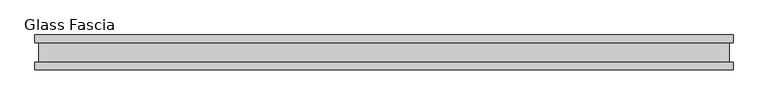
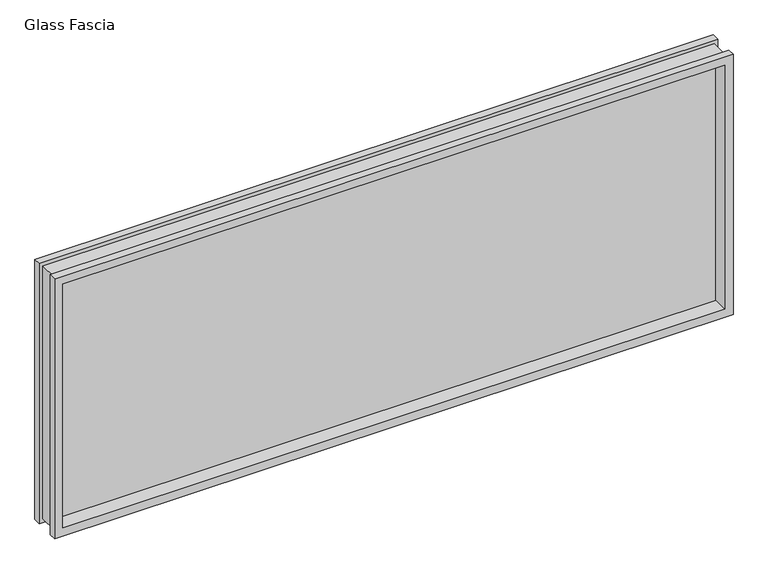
"""IFC4 building model written with IfcOpenShell, lengths in millimetres: proxy geometry, Panel-Fascia-Teknion-Altos-Glass : Glass Fascia."""

from ifc_helpers import new_model, si_unit, frame, origin, place, context, project, spatial, polyline, outline, extrude, faceted_brep, source, transform, mapped, element, save


def glass_fascia_9ef64add(model_context):
    return source(origin(), model_context, "Body", "SolidModel", [
        faceted_brep([(985.6995219, -5.0827449, 799.4805243), (985.6995219, 5.0827449, 799.4805243), (985.6995219, 5.0827449, 17.6374757), (985.6995219, -5.0827449, 17.6374757), (1000.1619976, -28.8801202, 813.943), (1000.1619976, -50.0558594, 813.943), (1000.1619976, -50.0558594, 3.175), (1000.1619976, -28.8801202, 3.175), (989.3369977, 28.2698798, 803.1180001), (989.3369977, -28.8801202, 803.1180001), (989.3369977, -28.8801202, 13.9999999), (989.3369977, 28.2698798, 13.9999999), (1000.1619976, 50.0558594, 813.943), (1000.1619976, 28.2698798, 813.943), (1000.1619976, 28.2698798, 3.175), (1000.1619976, 50.0558594, 3.175), (-985.6995219, 5.0827449, 17.6374757), (-985.6995219, -5.0827449, 17.6374757), (-1000.1619976, -50.0558594, 3.175), (-1000.1619976, -28.8801202, 3.175), (-989.3369977, -28.8801202, 13.9999999), (-989.3369977, 28.2698798, 13.9999999), (-1000.1619976, 28.2698798, 3.175), (-1000.1619976, 50.0558594, 3.175), (-985.6995219, 5.0827449, 799.4805243), (-985.6995219, -5.0827449, 799.4805243), (-1000.1619976, -50.0558594, 813.943), (-1000.1619976, -28.8801202, 813.943), (-989.3369977, -28.8801202, 803.1180001), (-989.3369977, 28.2698798, 803.1180001), (-1000.1619976, 28.2698798, 813.943), (-1000.1619976, 50.0558594, 813.943), (975.2093308, 50.0558594, 788.9903332), (-975.2093308, 50.0558594, 788.9903332), (-975.2093308, 50.0558594, 28.1276668), (975.2093308, 50.0558594, 28.1276668), (975.2093308, 5.0827449, 28.1276668), (-975.2093308, 5.0827449, 28.1276668), (-975.2093308, 5.0827449, 788.9903332), (975.2093308, 5.0827449, 788.9903332), (975.2093308, -5.0827449, 788.9903332), (-975.2093308, -5.0827449, 788.9903332), (-975.2093308, -5.0827449, 28.1276668), (975.2093308, -5.0827449, 28.1276668), (975.2093308, -50.0558594, 28.1276668), (-975.2093308, -50.0558594, 28.1276668), (-975.2093308, -50.0558594, 788.9903332), (975.2093308, -50.0558594, 788.9903332)], [[[0, 1, 2, 3]], [[4, 5, 6, 7]], [[8, 9, 10, 11]], [[12, 13, 14, 15]], [[3, 2, 16, 17]], [[7, 6, 18, 19]], [[11, 10, 20, 21]], [[15, 14, 22, 23]], [[17, 16, 24, 25]], [[19, 18, 26, 27]], [[21, 20, 28, 29]], [[23, 22, 30, 31]], [[15, 23, 31, 12], [32, 33, 34, 35]], [[1, 24, 16, 2], [36, 37, 38, 39]], [[25, 24, 1, 0]], [[3, 17, 25, 0], [40, 41, 42, 43]], [[5, 26, 18, 6], [44, 45, 46, 47]], [[27, 26, 5, 4]], [[7, 19, 27, 4], [9, 28, 20, 10]], [[29, 28, 9, 8]], [[13, 30, 22, 14], [11, 21, 29, 8]], [[31, 30, 13, 12]], [[39, 32, 35, 36]], [[47, 40, 43, 44]], [[36, 35, 34, 37]], [[44, 43, 42, 45]], [[37, 34, 33, 38]], [[45, 42, 41, 46]], [[38, 33, 32, 39]], [[46, 41, 40, 47]]]),
        extrude(outline(polyline([(985.6995219, 2.9765625), (985.6995219, -2.9765625), (-985.6995219, -2.9765625), (-985.6995219, 2.9765625), (985.6995219, 2.9765625)])), frame((0.0, 0.0, 17.6374757), z_axis=(0.0, 0.0, 1.0), x_axis=(1.0, 0.0, 0.0)), (0.0, 0.0, 1.0), 781.8430485),
    ])


if __name__ == "__main__":
    model = new_model("IFC4")
    model_context = context("Model", 3, world=origin())
    ifc_project = project(units=[si_unit("LENGTHUNIT", "METRE", prefix="MILLI")], contexts=[model_context])
    site = spatial("IfcSite", under=ifc_project)
    building = spatial("IfcBuilding", under=site)
    placement = place(None, origin())
    glass_fascia_shape = glass_fascia_9ef64add(model_context)
    element("IfcBuildingElementProxy", 1, Name="Panel-Fascia-Teknion-Altos-Glass : Glass Fascia", ObjectType="Panel-Fascia-Teknion-Altos-Glass : Glass Fascia", at=placement, inside=building, context=model_context, shape_type="MappedRepresentation", body=[
        mapped(glass_fascia_shape, transform((0.0, 0.0, 0.0), x_axis=(1.0, 0.0, 0.0), y_axis=(0.0, 1.0, 0.0), z_axis=(0.0, 0.0, 1.0))),
    ])
    save(model, "model.ifc")
